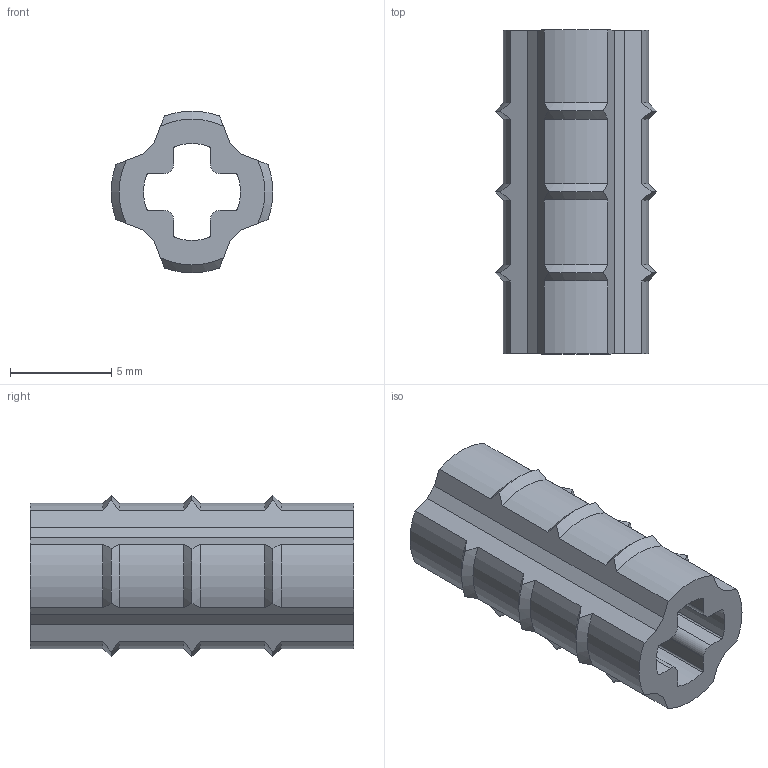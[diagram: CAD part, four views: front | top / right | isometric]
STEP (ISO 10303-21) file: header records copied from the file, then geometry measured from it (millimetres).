
FILE_DESCRIPTION(/* description */ ('Unknown'),/* implementation_level */ '2;1');
FILE_NAME(/* name */ 'Sand_4207456_AVV',/* time_stamp */ '2025-07-22T00:03:52+02:00',/* author */ ('Unknown'),/* organization */ ('Unknown'),/* preprocessor_version */ 'ST-DEVELOPER v19.4',/* originating_system */ 'Solid Edge',/* authorisation */ 'Unknown');
FILE_SCHEMA (('AUTOMOTIVE_DESIGN {1 0 10303 214 3 1 1}'));
Length unit declared in the file: millimetre
Products named in the file (1): Sand_4207456_AVV
Bounding box: 8 x 16 x 8 mm (x, y, z)
Volume: 379.7 mm3; surface area: 702.2 mm2
Topology: 1 solids, 1 shells, 78 faces, 228 edges, 152 vertices
Faces by surface type: cylinder 32, cone 24, plane 22
Entity records: 2690 total; most frequent: CARTESIAN_POINT 603, ORIENTED_EDGE 456, DIRECTION 414, EDGE_CURVE 228, AXIS2_PLACEMENT_3D 155, VERTEX_POINT 152, LINE 104, VECTOR 104
